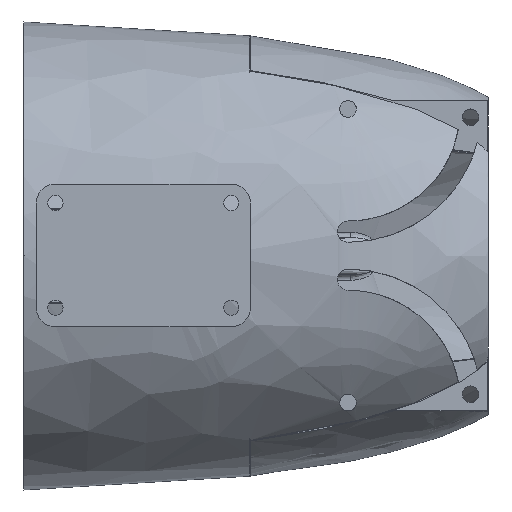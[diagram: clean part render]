
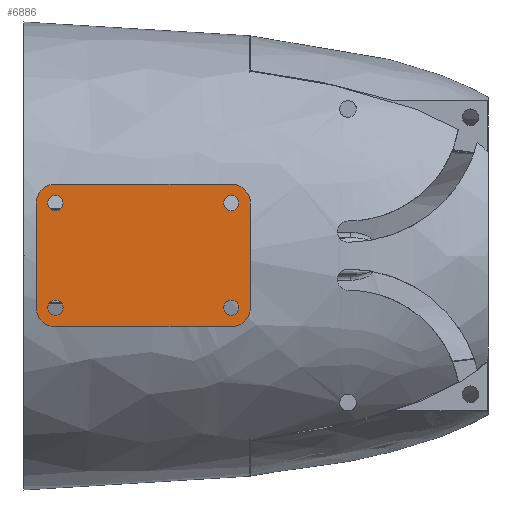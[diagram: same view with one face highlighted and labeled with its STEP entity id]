
A CAD part, top view. The second image highlights one B-rep face of the part: STEP entity #6886.
In plain terms, the highlighted planar face has unit normal (0, 0, 1).
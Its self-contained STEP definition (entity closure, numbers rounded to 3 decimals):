
#10 = CARTESIAN_POINT ( 'NONE',  ( 27.43, 15., 76.2 ) ) ;
#28 = DIRECTION ( 'NONE',  ( 1., 0., 0. ) ) ;
#122 = CARTESIAN_POINT ( 'NONE',  ( -11.17, 11., 76.2 ) ) ;
#127 = VECTOR ( 'NONE', #5155, 1000. ) ;
#338 = ORIENTED_EDGE ( 'NONE', *, *, #6961, .F. ) ;
#636 = ORIENTED_EDGE ( 'NONE', *, *, #3405, .T. ) ;
#646 = EDGE_LOOP ( 'NONE', ( #3297, #3182 ) ) ;
#737 = CARTESIAN_POINT ( 'NONE',  ( -9.57, -11., 76.2 ) ) ;
#790 = CARTESIAN_POINT ( 'NONE',  ( -7.97, 11., 76.2 ) ) ;
#942 = CIRCLE ( 'NONE', #8059, 4. ) ;
#973 = VERTEX_POINT ( 'NONE', #2102 ) ;
#989 = PLANE ( 'NONE',  #2560 ) ;
#1067 = DIRECTION ( 'NONE',  ( 0., 0., 1. ) ) ;
#1127 = DIRECTION ( 'NONE',  ( 0., 0., 1. ) ) ;
#1164 = CARTESIAN_POINT ( 'NONE',  ( 27.43, 11., 76.2 ) ) ;
#1198 = EDGE_CURVE ( 'NONE', #5311, #2768, #7478, .T. ) ;
#1241 = VECTOR ( 'NONE', #9602, 1000. ) ;
#1256 = DIRECTION ( 'NONE',  ( 0., 0., 1. ) ) ;
#1262 = AXIS2_PLACEMENT_3D ( 'NONE', #5762, #1067, #6546 ) ;
#1501 = EDGE_CURVE ( 'NONE', #9311, #9325, #6212, .T. ) ;
#1519 = DIRECTION ( 'NONE',  ( 1., 0., 0. ) ) ;
#1544 = CARTESIAN_POINT ( 'NONE',  ( -9.57, 11., 76.2 ) ) ;
#1635 = AXIS2_PLACEMENT_3D ( 'NONE', #1779, #7251, #2563 ) ;
#1779 = CARTESIAN_POINT ( 'NONE',  ( 27.43, -11., 76.2 ) ) ;
#1814 = VERTEX_POINT ( 'NONE', #8341 ) ;
#1934 = CARTESIAN_POINT ( 'NONE',  ( 31.43, -11., 76.2 ) ) ;
#1947 = DIRECTION ( 'NONE',  ( 1., 0., 0. ) ) ;
#2017 = DIRECTION ( 'NONE',  ( 0., 0., 1. ) ) ;
#2080 = DIRECTION ( 'NONE',  ( 1., 0., 0. ) ) ;
#2102 = CARTESIAN_POINT ( 'NONE',  ( -7.97, -11., 76.2 ) ) ;
#2263 = EDGE_LOOP ( 'NONE', ( #7492, #8468 ) ) ;
#2328 = EDGE_CURVE ( 'NONE', #3155, #5765, #5642, .T. ) ;
#2338 = DIRECTION ( 'NONE',  ( 1., 0., 0. ) ) ;
#2491 = ORIENTED_EDGE ( 'NONE', *, *, #5532, .T. ) ;
#2560 = AXIS2_PLACEMENT_3D ( 'NONE', #7284, #8069, #3380 ) ;
#2563 = DIRECTION ( 'NONE',  ( 1., 0., 0. ) ) ;
#2734 = CIRCLE ( 'NONE', #2744, 1.6 ) ;
#2744 = AXIS2_PLACEMENT_3D ( 'NONE', #737, #6205, #1519 ) ;
#2768 = VERTEX_POINT ( 'NONE', #7227 ) ;
#2772 = ORIENTED_EDGE ( 'NONE', *, *, #8073, .T. ) ;
#2884 = CIRCLE ( 'NONE', #9468, 1.6 ) ;
#3087 = EDGE_CURVE ( 'NONE', #6070, #6149, #2884, .T. ) ;
#3155 = VERTEX_POINT ( 'NONE', #10 ) ;
#3182 = ORIENTED_EDGE ( 'NONE', *, *, #1198, .F. ) ;
#3244 = CIRCLE ( 'NONE', #7539, 1.6 ) ;
#3297 = ORIENTED_EDGE ( 'NONE', *, *, #6233, .F. ) ;
#3380 = DIRECTION ( 'NONE',  ( 1., 0., 0. ) ) ;
#3402 = VECTOR ( 'NONE', #9934, 1000. ) ;
#3405 = EDGE_CURVE ( 'NONE', #9325, #7406, #4173, .T. ) ;
#3453 = CARTESIAN_POINT ( 'NONE',  ( 27.43, 11., 76.2 ) ) ;
#3500 = CARTESIAN_POINT ( 'NONE',  ( -9.57, 15., 76.2 ) ) ;
#3542 = EDGE_LOOP ( 'NONE', ( #338, #5136 ) ) ;
#3773 = ORIENTED_EDGE ( 'NONE', *, *, #5512, .F. ) ;
#3925 = VERTEX_POINT ( 'NONE', #9864 ) ;
#4054 = EDGE_LOOP ( 'NONE', ( #9989, #6658, #2772, #2491, #7916, #636, #8716, #9016 ) ) ;
#4059 = CIRCLE ( 'NONE', #1262, 1.6 ) ;
#4118 = CARTESIAN_POINT ( 'NONE',  ( 27.43, 11., 76.2 ) ) ;
#4121 = AXIS2_PLACEMENT_3D ( 'NONE', #3453, #8930, #4223 ) ;
#4173 = CIRCLE ( 'NONE', #7553, 4. ) ;
#4223 = DIRECTION ( 'NONE',  ( 1., 0., 0. ) ) ;
#4286 = FACE_OUTER_BOUND ( 'NONE', #4054, .T. ) ;
#4389 = VERTEX_POINT ( 'NONE', #5375 ) ;
#4537 = CIRCLE ( 'NONE', #4121, 1.6 ) ;
#4675 = DIRECTION ( 'NONE',  ( 0., 0., 1. ) ) ;
#4877 = CIRCLE ( 'NONE', #10086, 1.6 ) ;
#4904 = DIRECTION ( 'NONE',  ( 1., 0., 0. ) ) ;
#4911 = CIRCLE ( 'NONE', #5629, 4. ) ;
#5136 = ORIENTED_EDGE ( 'NONE', *, *, #6931, .F. ) ;
#5155 = DIRECTION ( 'NONE',  ( 0., -1., 0. ) ) ;
#5311 = VERTEX_POINT ( 'NONE', #8924 ) ;
#5347 = FACE_BOUND ( 'NONE', #646, .T. ) ;
#5375 = CARTESIAN_POINT ( 'NONE',  ( 25.83, 11., 76.2 ) ) ;
#5512 = EDGE_CURVE ( 'NONE', #6149, #6070, #3244, .T. ) ;
#5532 = EDGE_CURVE ( 'NONE', #3925, #9311, #7048, .T. ) ;
#5629 = AXIS2_PLACEMENT_3D ( 'NONE', #5939, #1256, #6715 ) ;
#5642 = LINE ( 'NONE', #6992, #1241 ) ;
#5645 = FACE_BOUND ( 'NONE', #8637, .T. ) ;
#5655 = EDGE_CURVE ( 'NONE', #973, #9882, #4059, .T. ) ;
#5762 = CARTESIAN_POINT ( 'NONE',  ( -9.57, -11., 76.2 ) ) ;
#5765 = VERTEX_POINT ( 'NONE', #3500 ) ;
#5939 = CARTESIAN_POINT ( 'NONE',  ( -9.57, 11., 76.2 ) ) ;
#6020 = VERTEX_POINT ( 'NONE', #6187 ) ;
#6036 = CARTESIAN_POINT ( 'NONE',  ( 31.43, 15., 76.2 ) ) ;
#6070 = VERTEX_POINT ( 'NONE', #790 ) ;
#6149 = VERTEX_POINT ( 'NONE', #122 ) ;
#6187 = CARTESIAN_POINT ( 'NONE',  ( 29.03, 11., 76.2 ) ) ;
#6205 = DIRECTION ( 'NONE',  ( 0., 0., 1. ) ) ;
#6212 = LINE ( 'NONE', #8384, #9190 ) ;
#6233 = EDGE_CURVE ( 'NONE', #2768, #5311, #8137, .T. ) ;
#6386 = DIRECTION ( 'NONE',  ( 1., 0., 0. ) ) ;
#6440 = ORIENTED_EDGE ( 'NONE', *, *, #3087, .F. ) ;
#6501 = AXIS2_PLACEMENT_3D ( 'NONE', #9385, #4675, #28 ) ;
#6546 = DIRECTION ( 'NONE',  ( 1., 0., 0. ) ) ;
#6631 = DIRECTION ( 'NONE',  ( 0., 0., 1. ) ) ;
#6658 = ORIENTED_EDGE ( 'NONE', *, *, #7962, .T. ) ;
#6715 = DIRECTION ( 'NONE',  ( 1., 0., 0. ) ) ;
#6886 = ADVANCED_FACE ( 'NONE', ( #5645, #5347, #4286, #8033, #8635 ), #989, .T. ) ;
#6931 = EDGE_CURVE ( 'NONE', #6020, #4389, #4537, .T. ) ;
#6961 = EDGE_CURVE ( 'NONE', #4389, #6020, #4877, .T. ) ;
#6992 = CARTESIAN_POINT ( 'NONE',  ( -13.57, 15., 76.2 ) ) ;
#7016 = DIRECTION ( 'NONE',  ( 0., 0., 1. ) ) ;
#7048 = CIRCLE ( 'NONE', #6501, 4. ) ;
#7084 = EDGE_CURVE ( 'NONE', #9882, #973, #2734, .T. ) ;
#7227 = CARTESIAN_POINT ( 'NONE',  ( 25.83, -11., 76.2 ) ) ;
#7251 = DIRECTION ( 'NONE',  ( 0., 0., 1. ) ) ;
#7284 = CARTESIAN_POINT ( 'NONE',  ( 0., 0., 76.2 ) ) ;
#7371 = VERTEX_POINT ( 'NONE', #8953 ) ;
#7406 = VERTEX_POINT ( 'NONE', #1934 ) ;
#7478 = CIRCLE ( 'NONE', #8108, 1.6 ) ;
#7492 = ORIENTED_EDGE ( 'NONE', *, *, #7084, .F. ) ;
#7539 = AXIS2_PLACEMENT_3D ( 'NONE', #1544, #7016, #2338 ) ;
#7553 = AXIS2_PLACEMENT_3D ( 'NONE', #9139, #2017, #2080 ) ;
#7789 = EDGE_CURVE ( 'NONE', #7371, #3155, #942, .T. ) ;
#7916 = ORIENTED_EDGE ( 'NONE', *, *, #1501, .T. ) ;
#7934 = LINE ( 'NONE', #8388, #127 ) ;
#7944 = LINE ( 'NONE', #6036, #3402 ) ;
#7962 = EDGE_CURVE ( 'NONE', #5765, #1814, #4911, .T. ) ;
#8033 = FACE_BOUND ( 'NONE', #2263, .T. ) ;
#8059 = AXIS2_PLACEMENT_3D ( 'NONE', #4118, #9604, #4904 ) ;
#8069 = DIRECTION ( 'NONE',  ( 0., 0., 1. ) ) ;
#8073 = EDGE_CURVE ( 'NONE', #1814, #3925, #7934, .T. ) ;
#8108 = AXIS2_PLACEMENT_3D ( 'NONE', #9414, #9483, #9549 ) ;
#8137 = CIRCLE ( 'NONE', #1635, 1.6 ) ;
#8341 = CARTESIAN_POINT ( 'NONE',  ( -13.57, 11., 76.2 ) ) ;
#8384 = CARTESIAN_POINT ( 'NONE',  ( -13.57, -15., 76.2 ) ) ;
#8388 = CARTESIAN_POINT ( 'NONE',  ( -13.57, 15., 76.2 ) ) ;
#8468 = ORIENTED_EDGE ( 'NONE', *, *, #5655, .F. ) ;
#8635 = FACE_BOUND ( 'NONE', #3542, .T. ) ;
#8637 = EDGE_LOOP ( 'NONE', ( #3773, #6440 ) ) ;
#8716 = ORIENTED_EDGE ( 'NONE', *, *, #9431, .T. ) ;
#8924 = CARTESIAN_POINT ( 'NONE',  ( 29.03, -11., 76.2 ) ) ;
#8930 = DIRECTION ( 'NONE',  ( 0., 0., 1. ) ) ;
#8953 = CARTESIAN_POINT ( 'NONE',  ( 31.43, 11., 76.2 ) ) ;
#8966 = CARTESIAN_POINT ( 'NONE',  ( -9.57, 11., 76.2 ) ) ;
#9016 = ORIENTED_EDGE ( 'NONE', *, *, #7789, .T. ) ;
#9139 = CARTESIAN_POINT ( 'NONE',  ( 27.43, -11., 76.2 ) ) ;
#9190 = VECTOR ( 'NONE', #10059, 1000. ) ;
#9311 = VERTEX_POINT ( 'NONE', #9748 ) ;
#9325 = VERTEX_POINT ( 'NONE', #9772 ) ;
#9332 = CARTESIAN_POINT ( 'NONE',  ( -11.17, -11., 76.2 ) ) ;
#9385 = CARTESIAN_POINT ( 'NONE',  ( -9.57, -11., 76.2 ) ) ;
#9414 = CARTESIAN_POINT ( 'NONE',  ( 27.43, -11., 76.2 ) ) ;
#9431 = EDGE_CURVE ( 'NONE', #7406, #7371, #7944, .T. ) ;
#9468 = AXIS2_PLACEMENT_3D ( 'NONE', #8966, #1127, #6386 ) ;
#9483 = DIRECTION ( 'NONE',  ( 0., 0., 1. ) ) ;
#9549 = DIRECTION ( 'NONE',  ( 1., 0., 0. ) ) ;
#9602 = DIRECTION ( 'NONE',  ( -1., 0., 0. ) ) ;
#9604 = DIRECTION ( 'NONE',  ( 0., 0., 1. ) ) ;
#9748 = CARTESIAN_POINT ( 'NONE',  ( -9.57, -15., 76.2 ) ) ;
#9772 = CARTESIAN_POINT ( 'NONE',  ( 27.43, -15., 76.2 ) ) ;
#9864 = CARTESIAN_POINT ( 'NONE',  ( -13.57, -11., 76.2 ) ) ;
#9882 = VERTEX_POINT ( 'NONE', #9332 ) ;
#9934 = DIRECTION ( 'NONE',  ( 0., 1., 0. ) ) ;
#9989 = ORIENTED_EDGE ( 'NONE', *, *, #2328, .T. ) ;
#10059 = DIRECTION ( 'NONE',  ( 1., 0., 0. ) ) ;
#10086 = AXIS2_PLACEMENT_3D ( 'NONE', #1164, #6631, #1947 ) ;
